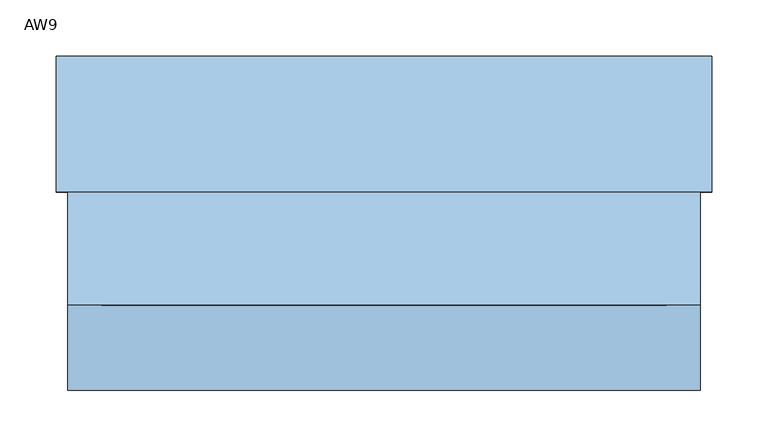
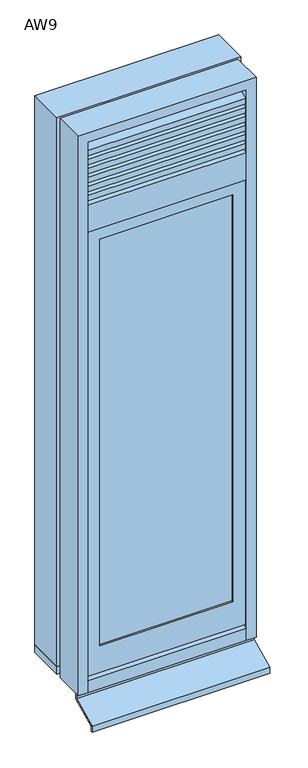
"""IFC4 building model written with IfcOpenShell, lengths in millimetres: window geometry, 営_段窓_縦辷出し/ガラリ : AW9."""

from ifc_helpers import new_model, si_unit, frame, origin, place, context, project, spatial, polyline, outline, extrude, source, transform, mapped, element, save


def aw9_efacfa99(model_context):
    return source(origin(), model_context, "Body", "SweptSolid", [
        extrude(outline(polyline([(-20.0, 2823.2493654), (25.0, 2843.2493654), (25.0, 2855.0), (30.0, 2855.0), (30.0, 2840.0), (-15.0, 2820.0), (-15.0, 2805.0), (-20.0, 2805.0), (-20.0, 2823.2493654)])), frame((-250.0, 0.0, 0.0), z_axis=(1.0, 0.0, 0.0), x_axis=(0.0, 1.0, 0.0)), (0.0, 0.0, 1.0), 500.0),
        extrude(outline(polyline([(-20.0, 2793.2493654), (25.0, 2813.2493654), (25.0, 2825.0), (30.0, 2825.0), (30.0, 2810.0), (-15.0, 2790.0), (-15.0, 2775.0), (-20.0, 2775.0), (-20.0, 2793.2493654)])), frame((-250.0, 0.0, 0.0), z_axis=(1.0, 0.0, 0.0), x_axis=(0.0, 1.0, 0.0)), (0.0, 0.0, 1.0), 500.0),
        extrude(outline(polyline([(-20.0, 2763.2493654), (25.0, 2783.2493654), (25.0, 2795.0), (30.0, 2795.0), (30.0, 2780.0), (-15.0, 2760.0), (-15.0, 2745.0), (-20.0, 2745.0), (-20.0, 2763.2493654)])), frame((-250.0, 0.0, 0.0), z_axis=(1.0, 0.0, 0.0), x_axis=(0.0, 1.0, 0.0)), (0.0, 0.0, 1.0), 500.0),
        extrude(outline(polyline([(-20.0, 2733.2493654), (25.0, 2753.2493654), (25.0, 2765.0), (30.0, 2765.0), (30.0, 2750.0), (-15.0, 2730.0), (-15.0, 2715.0), (-20.0, 2715.0), (-20.0, 2733.2493654)])), frame((-250.0, 0.0, 0.0), z_axis=(1.0, 0.0, 0.0), x_axis=(0.0, 1.0, 0.0)), (0.0, 0.0, 1.0), 500.0),
        extrude(outline(polyline([(-20.0, 2853.2493654), (25.0, 2873.2493654), (25.0, 2885.0), (30.0, 2885.0), (30.0, 2870.0), (-15.0, 2850.0), (-15.0, 2835.0), (-20.0, 2835.0), (-20.0, 2853.2493654)])), frame((-250.0, 0.0, 0.0), z_axis=(1.0, 0.0, 0.0), x_axis=(0.0, 1.0, 0.0)), (0.0, 0.0, 1.0), 500.0),
        extrude(outline(polyline([(-20.0, 2703.2493654), (25.0, 2723.2493654), (25.0, 2735.0), (30.0, 2735.0), (30.0, 2720.0), (-15.0, 2700.0), (-15.0, 2685.0), (-20.0, 2685.0), (-20.0, 2703.2493654)])), frame((-250.0, 0.0, 0.0), z_axis=(1.0, 0.0, 0.0), x_axis=(0.0, 1.0, 0.0)), (0.0, 0.0, 1.0), 500.0),
        extrude(outline(polyline([(210.0, -10.0), (210.0, -15.0), (-210.0, -15.0), (-210.0, -10.0), (210.0, -10.0)])), frame((0.0, 0.0, 1190.0), z_axis=(0.0, 0.0, 1.0), x_axis=(1.0, 0.0, 0.0)), (0.0, 0.0, 1.0), 1355.0),
        extrude(outline(polyline([(2585.0, 250.0), (2585.0, -250.0), (1100.0, -250.0), (1100.0, 250.0), (2585.0, 250.0)]), holes=[polyline([(2545.0, 210.0), (1190.0, 210.0), (1190.0, -210.0), (2545.0, -210.0), (2545.0, 210.0)])]), frame((0.0, -20.0, 0.0), z_axis=(0.0, 1.0, 0.0), x_axis=(0.0, 0.0, 1.0)), (0.0, 0.0, 1.0), 30.0),
        extrude(outline(polyline([(290.0, 195.0), (290.0, 75.0), (-290.0, 75.0), (-290.0, 195.0), (290.0, 195.0)])), frame((0.0, 0.0, 1065.0), z_axis=(0.0, 0.0, 1.0), x_axis=(1.0, 0.0, 0.0)), (0.0, 0.0, 1.0), 25.0),
        extrude(outline(polyline([(-15.0, 1035.0), (-15.0, 1050.0), (-10.0, 1050.0), (-10.0, 1031.8269723), (-95.0014518, 991.8262891), (-95.0014518, 975.0), (-100.0, 975.0), (-100.0, 995.0), (-15.0, 1035.0)])), frame((-280.0, 0.0, 0.0), z_axis=(1.0, 0.0, 0.0), x_axis=(0.0, 1.0, 0.0)), (0.0, 0.0, 1.0), 560.0),
        extrude(outline(polyline([(1065.0, -265.0), (2895.0, -265.0), (2895.0, 265.0), (1065.0, 265.0), (1065.0, 290.0), (2920.0, 290.0), (2920.0, -290.0), (1065.0, -290.0), (1065.0, -265.0)])), frame((0.0, 75.0, 0.0), z_axis=(0.0, 1.0, 0.0), x_axis=(0.0, 0.0, 1.0)), (0.0, 0.0, 1.0), 120.0),
        extrude(outline(polyline([(1050.0, -250.0), (2885.0, -250.0), (2885.0, 250.0), (1050.0, 250.0), (1050.0, 280.0), (2915.0, 280.0), (2915.0, -280.0), (1050.0, -280.0), (1050.0, -250.0)])), frame((0.0, -25.0, 0.0), z_axis=(0.0, 1.0, 0.0), x_axis=(0.0, 0.0, 1.0)), (0.0, 0.0, 1.0), 100.0),
        extrude(outline(polyline([(75.0, 1050.0), (-25.0, 1050.0), (-25.0, 1090.6666667), (75.0, 1100.0), (75.0, 1050.0)])), frame((-250.0, 0.0, 0.0), z_axis=(1.0, 0.0, 0.0), x_axis=(0.0, 1.0, 0.0)), (0.0, 0.0, 1.0), 500.0),
        extrude(outline(polyline([(-25.0, 2585.0), (-25.0, 2675.0), (75.0, 2685.0), (75.0, 2585.0), (-25.0, 2585.0)])), frame((-250.0, 0.0, 0.0), z_axis=(1.0, 0.0, 0.0), x_axis=(0.0, 1.0, 0.0)), (0.0, 0.0, 1.0), 500.0),
    ])


if __name__ == "__main__":
    model = new_model("IFC4")
    model_context = context("Model", 3, world=origin())
    ifc_project = project(units=[si_unit("LENGTHUNIT", "METRE", prefix="MILLI")], contexts=[model_context])
    site = spatial("IfcSite", under=ifc_project)
    building = spatial("IfcBuilding", under=site)
    placement = place(None, origin())
    aw9_shape = aw9_efacfa99(model_context)
    element("IfcWindow", 1, ObjectType="営_段窓_縦辷出し/ガラリ : AW9", at=placement, inside=building, context=model_context, shape_type="MappedRepresentation", body=[
        mapped(aw9_shape, transform((0.0, 0.0, 0.0), x_axis=(1.0, 0.0, 0.0), y_axis=(0.0, 1.0, 0.0), z_axis=(0.0, 0.0, 1.0))),
    ])
    save(model, "model.ifc")
